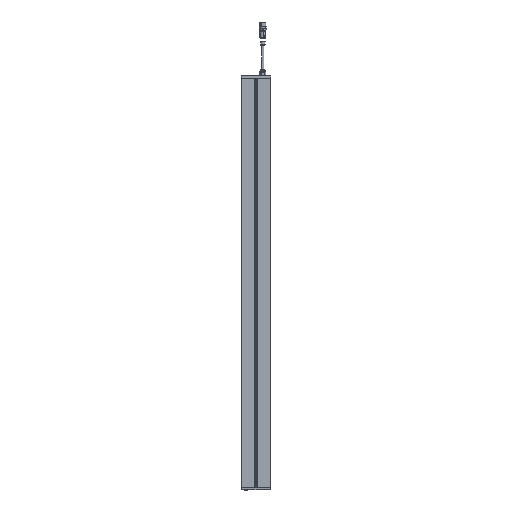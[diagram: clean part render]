
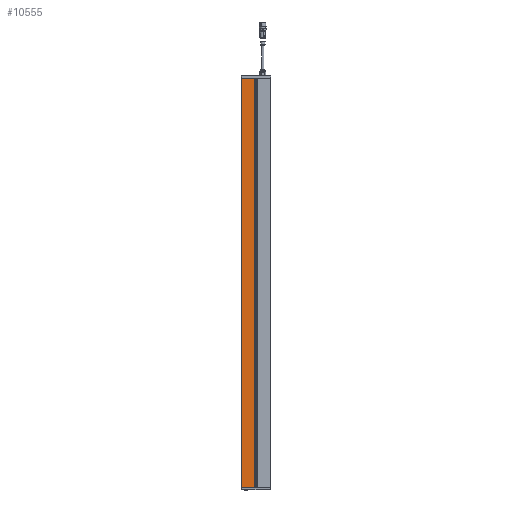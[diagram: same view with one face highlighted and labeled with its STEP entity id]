
A CAD part, front view. The second image highlights one B-rep face of the part: STEP entity #10555.
In plain terms, the highlighted planar face has unit normal (0, -1, 0).
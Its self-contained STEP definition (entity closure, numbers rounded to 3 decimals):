
#1218=FACE_OUTER_BOUND('',#1810,.T.);
#1810=EDGE_LOOP('',(#6546,#6547,#6548,#6549));
#2450=LINE('',#14825,#3191);
#2451=LINE('',#14827,#3192);
#2452=LINE('',#14829,#3193);
#2453=LINE('',#14830,#3194);
#3191=VECTOR('',#12148,10.);
#3192=VECTOR('',#12149,10.);
#3193=VECTOR('',#12150,10.);
#3194=VECTOR('',#12151,10.);
#3932=VERTEX_POINT('',#14823);
#3933=VERTEX_POINT('',#14824);
#3934=VERTEX_POINT('',#14826);
#3935=VERTEX_POINT('',#14828);
#4965=EDGE_CURVE('',#3932,#3933,#2450,.T.);
#4966=EDGE_CURVE('',#3932,#3934,#2451,.T.);
#4967=EDGE_CURVE('',#3934,#3935,#2452,.T.);
#4968=EDGE_CURVE('',#3933,#3935,#2453,.T.);
#6546=ORIENTED_EDGE('',*,*,#4965,.F.);
#6547=ORIENTED_EDGE('',*,*,#4966,.T.);
#6548=ORIENTED_EDGE('',*,*,#4967,.T.);
#6549=ORIENTED_EDGE('',*,*,#4968,.F.);
#9702=PLANE('',#11170);
#10555=ADVANCED_FACE('',(#1218),#9702,.T.);
#11170=AXIS2_PLACEMENT_3D('',#14822,#12146,#12147);
#12146=DIRECTION('center_axis',(0.,-1.,0.));
#12147=DIRECTION('ref_axis',(1.,0.,0.));
#12148=DIRECTION('',(0.,0.,1.));
#12149=DIRECTION('',(1.,0.,0.));
#12150=DIRECTION('',(0.,0.,1.));
#12151=DIRECTION('',(1.,0.,0.));
#14822=CARTESIAN_POINT('Origin',(-177.27,-135.186,-445.964));
#14823=CARTESIAN_POINT('',(-178.02,-135.186,-445.964));
#14824=CARTESIAN_POINT('',(-178.02,-135.186,399.036));
#14825=CARTESIAN_POINT('',(-178.02,-135.186,-23.464));
#14826=CARTESIAN_POINT('',(-150.77,-135.186,-445.964));
#14827=CARTESIAN_POINT('',(-177.27,-135.186,-445.964));
#14828=CARTESIAN_POINT('',(-150.77,-135.186,399.036));
#14829=CARTESIAN_POINT('',(-150.77,-135.186,-23.464));
#14830=CARTESIAN_POINT('',(-178.27,-135.186,399.036));
